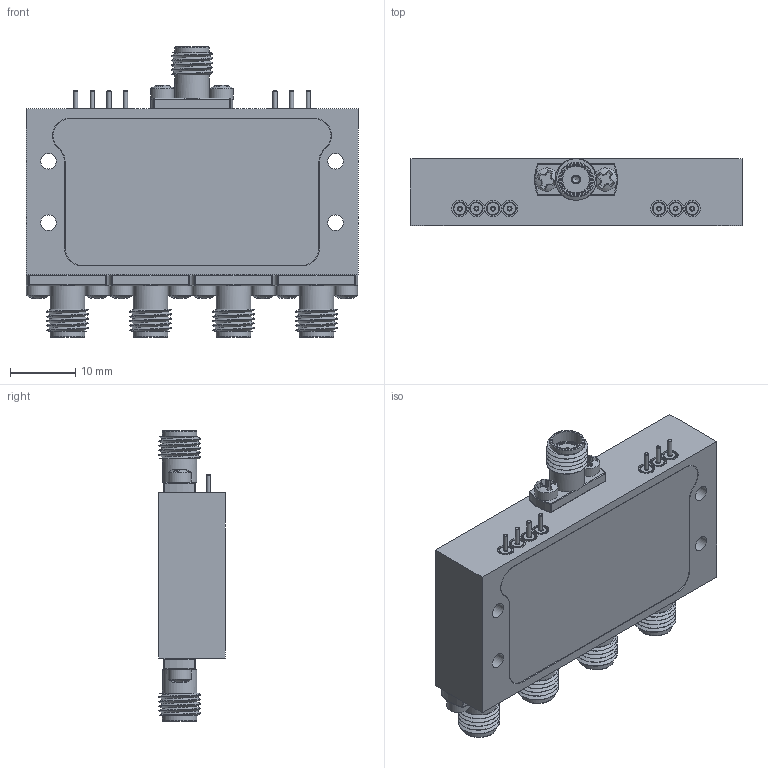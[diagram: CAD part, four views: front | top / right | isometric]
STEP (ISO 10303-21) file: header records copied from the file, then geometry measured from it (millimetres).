
FILE_DESCRIPTION (( 'STEP AP214' ), '1' );
FILE_NAME ('P4T-2G18G-60-T-512-SFF-LV-SP.STEP', '2026-08-21T21:11:39', ( '' ), ( '' ), 'SwSTEP 2.0', 'SolidWorks 2025', '' );
FILE_SCHEMA (( 'AUTOMOTIVE_DESIGN' ));
Length unit declared in the file: inch
Products named in the file (1): P4T-2G18G-60-T-512-SFF-LV-SP
Bounding box: 50.8 x 10.21 x 44.45 mm (x, y, z)
Volume: 9396.6 mm3; surface area: 15815.2 mm2
Topology: 36 solids, 36 shells, 1529 faces, 4427 edges, 3208 vertices
Faces by surface type: plane 717, cylinder 494, torus 157, cone 101, sphere 50, bspline 10
Full cylindrical faces by diameter (mm): 0.305 x5, 0.559 x5, 0.635 x14, 0.889 x5, 1.016 x5, 1.27 x5, 1.295 x46, 1.524 x31, 1.676 x5, 1.854 x10, 1.93 x7, 2.032 x20, 2.184 x20, 2.388 x4, 2.489 x5, 2.515 x15, 2.591 x10, 3.302 x5, 3.556 x10, 4.191 x10, 4.597 x5, 5.283 x10
Entity records: 75594 total; most frequent: CARTESIAN_POINT 16830, DIRECTION 7984, ORIENTED_EDGE 7692, EDGE_CURVE 3846, VERTEX_POINT 3117, AXIS2_PLACEMENT_3D 3084, EDGE_LOOP 2327, FACE_OUTER_BOUND 1928
